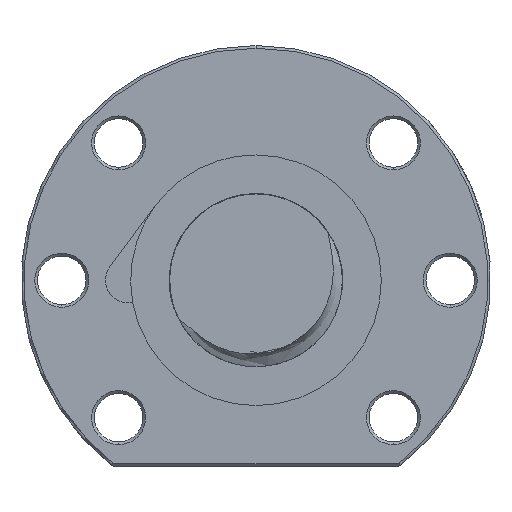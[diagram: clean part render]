
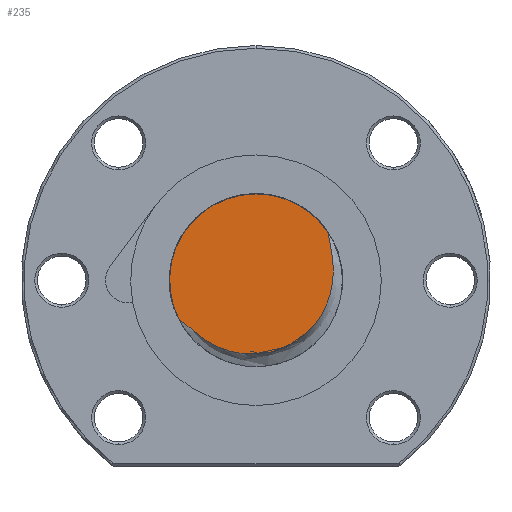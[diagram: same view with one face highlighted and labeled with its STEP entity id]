
A CAD part, left-side view. The second image highlights one B-rep face of the part: STEP entity #235.
In plain terms, the highlighted planar face has unit normal (-1, 0, 0).
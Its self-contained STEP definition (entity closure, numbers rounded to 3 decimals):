
#115 = EDGE_CURVE ( 'NONE', #742, #116, #2351, .T. ) ;
#116 = VERTEX_POINT ( 'NONE', #2346 ) ;
#235 = ADVANCED_FACE ( 'NONE', ( #5806 ), #5773, .F. ) ;
#236 = EDGE_LOOP ( 'NONE', ( #237, #238, #240 ) ) ;
#237 = ORIENTED_EDGE ( 'NONE', *, *, #747, .F. ) ;
#238 = ORIENTED_EDGE ( 'NONE', *, *, #239, .T. ) ;
#239 = EDGE_CURVE ( 'NONE', #744, #116, #5768, .T. ) ;
#240 = ORIENTED_EDGE ( 'NONE', *, *, #115, .F. ) ;
#742 = VERTEX_POINT ( 'NONE', #6851 ) ;
#744 = VERTEX_POINT ( 'NONE', #6850 ) ;
#747 = EDGE_CURVE ( 'NONE', #744, #742, #6840, .T. ) ;
#2346 = CARTESIAN_POINT ( 'NONE',  ( -232., -13.336, 8.84 ) ) ;
#2347 = DIRECTION ( 'NONE',  ( 0., 1., 0. ) ) ;
#2348 = DIRECTION ( 'NONE',  ( 1., 0., 0. ) ) ;
#2349 = CARTESIAN_POINT ( 'NONE',  ( -232., 0., 0. ) ) ;
#2350 = AXIS2_PLACEMENT_3D ( 'NONE', #2349, #2348, #2347 ) ;
#2351 = CIRCLE ( 'NONE', #2350, 16. ) ;
#5669 = CARTESIAN_POINT ( 'NONE',  ( -232., -13.336, 8.84 ) ) ;
#5670 = CARTESIAN_POINT ( 'NONE',  ( -232., -13.36, 8.597 ) ) ;
#5671 = CARTESIAN_POINT ( 'NONE',  ( -232., -13.403, 8.356 ) ) ;
#5672 = CARTESIAN_POINT ( 'NONE',  ( -232., -13.495, 7.876 ) ) ;
#5673 = CARTESIAN_POINT ( 'NONE',  ( -232., -13.546, 7.637 ) ) ;
#5674 = CARTESIAN_POINT ( 'NONE',  ( -232., -13.7, 6.92 ) ) ;
#5675 = CARTESIAN_POINT ( 'NONE',  ( -232., -13.804, 6.442 ) ) ;
#5676 = CARTESIAN_POINT ( 'NONE',  ( -232., -14.08, 5.001 ) ) ;
#5677 = CARTESIAN_POINT ( 'NONE',  ( -232., -14.218, 4.031 ) ) ;
#5678 = CARTESIAN_POINT ( 'NONE',  ( -232., -14.343, 2.092 ) ) ;
#5679 = CARTESIAN_POINT ( 'NONE',  ( -232., -14.333, 1.122 ) ) ;
#5680 = CARTESIAN_POINT ( 'NONE',  ( -232., -14.189, -0.337 ) ) ;
#5681 = CARTESIAN_POINT ( 'NONE',  ( -232., -14.12, -0.824 ) ) ;
#5682 = CARTESIAN_POINT ( 'NONE',  ( -232., -13.941, -1.781 ) ) ;
#5683 = CARTESIAN_POINT ( 'NONE',  ( -232., -13.83, -2.254 ) ) ;
#5684 = CARTESIAN_POINT ( 'NONE',  ( -232., -13.566, -3.186 ) ) ;
#5685 = CARTESIAN_POINT ( 'NONE',  ( -232., -13.413, -3.646 ) ) ;
#5686 = CARTESIAN_POINT ( 'NONE',  ( -232., -13.063, -4.553 ) ) ;
#5687 = CARTESIAN_POINT ( 'NONE',  ( -232., -12.865, -5.002 ) ) ;
#5688 = CARTESIAN_POINT ( 'NONE',  ( -232., -12.208, -6.316 ) ) ;
#5689 = CARTESIAN_POINT ( 'NONE',  ( -232., -11.694, -7.139 ) ) ;
#5690 = CARTESIAN_POINT ( 'NONE',  ( -232., -10.807, -8.291 ) ) ;
#5691 = CARTESIAN_POINT ( 'NONE',  ( -232., -10.492, -8.662 ) ) ;
#5692 = CARTESIAN_POINT ( 'NONE',  ( -232., -9.823, -9.376 ) ) ;
#5693 = CARTESIAN_POINT ( 'NONE',  ( -232., -9.469, -9.717 ) ) ;
#5694 = CARTESIAN_POINT ( 'NONE',  ( -232., -8.371, -10.678 ) ) ;
#5695 = CARTESIAN_POINT ( 'NONE',  ( -232., -7.584, -11.241 ) ) ;
#5696 = CARTESIAN_POINT ( 'NONE',  ( -232., -6.318, -11.968 ) ) ;
#5740 = CARTESIAN_POINT ( 'NONE',  ( -232., -5.88, -12.192 ) ) ;
#5741 = CARTESIAN_POINT ( 'NONE',  ( -232., -4.989, -12.593 ) ) ;
#5742 = CARTESIAN_POINT ( 'NONE',  ( -232., -4.536, -12.77 ) ) ;
#5743 = CARTESIAN_POINT ( 'NONE',  ( -232., -3.16, -13.232 ) ) ;
#5744 = CARTESIAN_POINT ( 'NONE',  ( -232., -2.216, -13.449 ) ) ;
#5745 = CARTESIAN_POINT ( 'NONE',  ( -232., -0.762, -13.638 ) ) ;
#5746 = CARTESIAN_POINT ( 'NONE',  ( -232., -0.272, -13.677 ) ) ;
#5747 = CARTESIAN_POINT ( 'NONE',  ( -232., 0.699, -13.707 ) ) ;
#5748 = CARTESIAN_POINT ( 'NONE',  ( -232., 1.181, -13.699 ) ) ;
#5749 = CARTESIAN_POINT ( 'NONE',  ( -232., 2.623, -13.607 ) ) ;
#5750 = CARTESIAN_POINT ( 'NONE',  ( -232., 3.576, -13.457 ) ) ;
#5751 = CARTESIAN_POINT ( 'NONE',  ( -232., 4.991, -13.096 ) ) ;
#5752 = CARTESIAN_POINT ( 'NONE',  ( -232., 5.462, -12.952 ) ) ;
#5753 = CARTESIAN_POINT ( 'NONE',  ( -232., 6.38, -12.627 ) ) ;
#5754 = CARTESIAN_POINT ( 'NONE',  ( -232., 6.829, -12.446 ) ) ;
#5755 = CARTESIAN_POINT ( 'NONE',  ( -232., 8.147, -11.846 ) ) ;
#5756 = CARTESIAN_POINT ( 'NONE',  ( -232., 8.988, -11.372 ) ) ;
#5757 = CARTESIAN_POINT ( 'NONE',  ( -232., 10.199, -10.564 ) ) ;
#5758 = CARTESIAN_POINT ( 'NONE',  ( -232., 10.596, -10.278 ) ) ;
#5759 = CARTESIAN_POINT ( 'NONE',  ( -232., 11.369, -9.68 ) ) ;
#5760 = CARTESIAN_POINT ( 'NONE',  ( -232., 11.745, -9.369 ) ) ;
#5761 = CARTESIAN_POINT ( 'NONE',  ( -232., 12.484, -8.73 ) ) ;
#5762 = CARTESIAN_POINT ( 'NONE',  ( -232., 12.846, -8.402 ) ) ;
#5763 = CARTESIAN_POINT ( 'NONE',  ( -232., 13.389, -7.911 ) ) ;
#5764 = CARTESIAN_POINT ( 'NONE',  ( -232., 13.57, -7.747 ) ) ;
#5765 = CARTESIAN_POINT ( 'NONE',  ( -232., 13.939, -7.428 ) ) ;
#5766 = CARTESIAN_POINT ( 'NONE',  ( -232., 14.127, -7.271 ) ) ;
#5767 = CARTESIAN_POINT ( 'NONE',  ( -232., 14.324, -7.129 ) ) ;
#5768 = B_SPLINE_CURVE_WITH_KNOTS ( 'NONE', 3,
 ( #5767, #5766, #5765, #5764, #5763, #5762, #5761, #5760, #5759, #5758, #5757, #5756, #5755, #5754, #5753, #5752, #5751, #5750, #5749, #5748, #5747, #5746, #5745, #5744, #5743, #5742, #5741, #5740, #5696, #5695, #5694, #5693, #5692, #5691, #5690, #5689, #5688, #5687, #5686, #5685, #5684, #5683, #5682, #5681, #5680, #5679, #5678, #5677, #5676, #5675, #5674, #5673, #5672, #5671, #5670, #5669 ),
 .UNSPECIFIED., .F., .F.,
 ( 4, 2, 2, 2, 2, 2, 2, 2, 2, 2, 2, 2, 2, 2, 2, 2, 2, 2, 2, 2, 2, 2, 2, 2, 2, 2, 2, 4 ),
 ( 0.012, 0.013, 0.014, 0.015, 0.017, 0.018, 0.021, 0.022, 0.024, 0.027, 0.028, 0.029, 0.032, 0.034, 0.035, 0.038, 0.039, 0.041, 0.044, 0.045, 0.047, 0.048, 0.049, 0.052, 0.055, 0.057, 0.057, 0.058 ),
 .UNSPECIFIED. ) ;
#5769 = DIRECTION ( 'NONE',  ( 0., 0., -1. ) ) ;
#5770 = DIRECTION ( 'NONE',  ( 1., 0., 0. ) ) ;
#5771 = CARTESIAN_POINT ( 'NONE',  ( -232., 0., 0. ) ) ;
#5772 = AXIS2_PLACEMENT_3D ( 'NONE', #5771, #5770, #5769 ) ;
#5773 = PLANE ( 'NONE',  #5772 ) ;
#5806 = FACE_OUTER_BOUND ( 'NONE', #236, .T. ) ;
#6835 = DIRECTION ( 'NONE',  ( 0., 1., 0. ) ) ;
#6837 = DIRECTION ( 'NONE',  ( 1., 0., 0. ) ) ;
#6838 = CARTESIAN_POINT ( 'NONE',  ( -232., 0., 0. ) ) ;
#6839 = AXIS2_PLACEMENT_3D ( 'NONE', #6838, #6837, #6835 ) ;
#6840 = CIRCLE ( 'NONE', #6839, 16. ) ;
#6850 = CARTESIAN_POINT ( 'NONE',  ( -232., 14.324, -7.129 ) ) ;
#6851 = CARTESIAN_POINT ( 'NONE',  ( -232., 0., 16. ) ) ;
